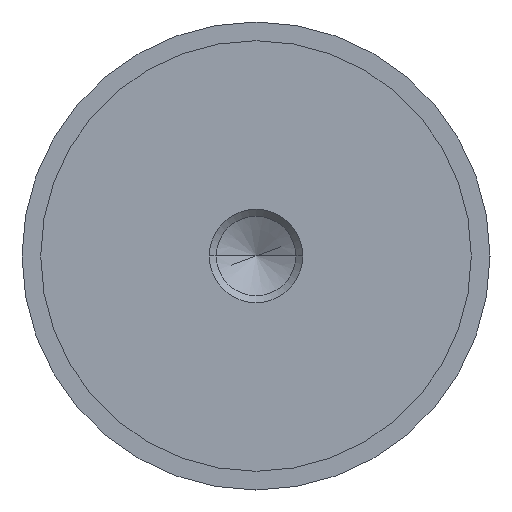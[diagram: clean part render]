
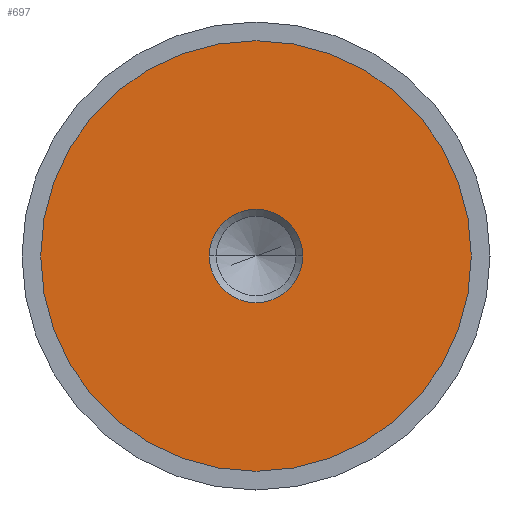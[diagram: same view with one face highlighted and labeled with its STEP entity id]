
A CAD part, left-side view. The second image highlights one B-rep face of the part: STEP entity #697.
In plain terms, the highlighted planar face has unit normal (-1, 0, 0).
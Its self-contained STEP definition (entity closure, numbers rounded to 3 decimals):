
#62 = EDGE_CURVE ( 'NONE', #141, #108, #94, .T. ) ;
#63 = PLANE ( 'NONE',  #149 ) ;
#72 = DIRECTION ( 'NONE',  ( 1., 0., 0. ) ) ;
#79 = CIRCLE ( 'NONE', #126, 4.99 ) ;
#91 = ORIENTED_EDGE ( 'NONE', *, *, #680, .T. ) ;
#94 = CIRCLE ( 'NONE', #327, 23. ) ;
#108 = VERTEX_POINT ( 'NONE', #419 ) ;
#110 = DIRECTION ( 'NONE',  ( 0., 0., 1. ) ) ;
#124 = DIRECTION ( 'NONE',  ( 0., 0., -1. ) ) ;
#126 = AXIS2_PLACEMENT_3D ( 'NONE', #721, #284, #600 ) ;
#141 = VERTEX_POINT ( 'NONE', #253 ) ;
#145 = EDGE_LOOP ( 'NONE', ( #596, #695 ) ) ;
#149 = AXIS2_PLACEMENT_3D ( 'NONE', #501, #72, #124 ) ;
#168 = DIRECTION ( 'NONE',  ( -1., 0., 0. ) ) ;
#172 = CARTESIAN_POINT ( 'NONE',  ( -12.49, -4.99, 0. ) ) ;
#241 = DIRECTION ( 'NONE',  ( 1., 0., 0. ) ) ;
#248 = CARTESIAN_POINT ( 'NONE',  ( -12.49, 0., 0. ) ) ;
#253 = CARTESIAN_POINT ( 'NONE',  ( -12.49, 0., -23. ) ) ;
#260 = VERTEX_POINT ( 'NONE', #530 ) ;
#284 = DIRECTION ( 'NONE',  ( 1., 0., 0. ) ) ;
#286 = EDGE_CURVE ( 'NONE', #108, #141, #487, .T. ) ;
#327 = AXIS2_PLACEMENT_3D ( 'NONE', #435, #168, #110 ) ;
#361 = AXIS2_PLACEMENT_3D ( 'NONE', #702, #539, #395 ) ;
#378 = VERTEX_POINT ( 'NONE', #172 ) ;
#395 = DIRECTION ( 'NONE',  ( 0., 0., 1. ) ) ;
#404 = EDGE_LOOP ( 'NONE', ( #91, #687 ) ) ;
#419 = CARTESIAN_POINT ( 'NONE',  ( -12.49, 0., 23. ) ) ;
#428 = DIRECTION ( 'NONE',  ( 0., 0., -1. ) ) ;
#435 = CARTESIAN_POINT ( 'NONE',  ( -12.49, 0., 0. ) ) ;
#487 = CIRCLE ( 'NONE', #361, 23. ) ;
#501 = CARTESIAN_POINT ( 'NONE',  ( -12.49, 23., 0. ) ) ;
#507 = CIRCLE ( 'NONE', #664, 4.99 ) ;
#530 = CARTESIAN_POINT ( 'NONE',  ( -12.49, 4.99, 0. ) ) ;
#539 = DIRECTION ( 'NONE',  ( -1., 0., 0. ) ) ;
#560 = FACE_OUTER_BOUND ( 'NONE', #145, .T. ) ;
#588 = EDGE_CURVE ( 'NONE', #260, #378, #79, .T. ) ;
#596 = ORIENTED_EDGE ( 'NONE', *, *, #286, .T. ) ;
#600 = DIRECTION ( 'NONE',  ( 0., 0., -1. ) ) ;
#664 = AXIS2_PLACEMENT_3D ( 'NONE', #248, #241, #428 ) ;
#680 = EDGE_CURVE ( 'NONE', #378, #260, #507, .T. ) ;
#687 = ORIENTED_EDGE ( 'NONE', *, *, #588, .T. ) ;
#695 = ORIENTED_EDGE ( 'NONE', *, *, #62, .T. ) ;
#697 = ADVANCED_FACE ( 'NONE', ( #740, #560 ), #63, .F. ) ;
#702 = CARTESIAN_POINT ( 'NONE',  ( -12.49, 0., 0. ) ) ;
#721 = CARTESIAN_POINT ( 'NONE',  ( -12.49, 0., 0. ) ) ;
#740 = FACE_BOUND ( 'NONE', #404, .T. ) ;
